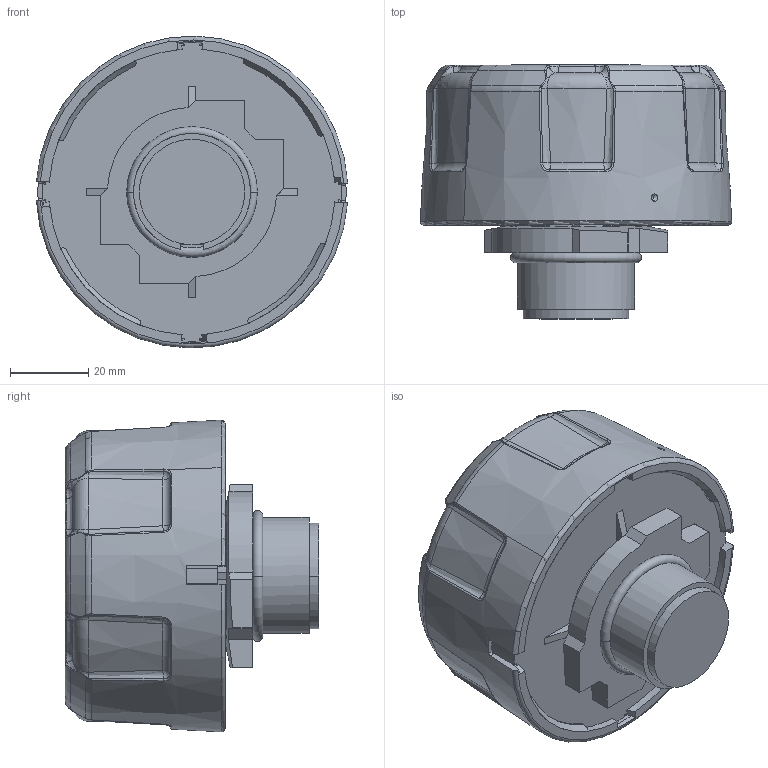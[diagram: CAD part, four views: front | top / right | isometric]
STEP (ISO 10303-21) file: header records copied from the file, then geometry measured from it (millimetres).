
FILE_DESCRIPTION((''),'2;1');
FILE_NAME('13206201_388216','2017-09-26T',('f.kollmann'),(''),'PRO/ENGINEER BY PARAMETRIC TECHNOLOGY CORPORATION, 2015110','PRO/ENGINEER BY PARAMETRIC TECHNOLOGY CORPORATION, 2015110','');
FILE_SCHEMA(('AUTOMOTIVE_DESIGN { 1 0 10303 214 1 1 1 1 }'));
Length unit declared in the file: millimetre
Products named in the file (1): 13206201_388216
Bounding box: 79.76 x 65 x 79.87 mm (x, y, z)
Volume: 204279.3 mm3; surface area: 26416.5 mm2
Topology: 1 solids, 3 shells, 428 faces, 1126 edges, 700 vertices
Faces by surface type: bspline 178, plane 94, cylinder 65, cone 51, torus 28, sphere 12
Entity records: 23756 total; most frequent: CARTESIAN_POINT 10486, ORIENTED_EDGE 2252, DIRECTION 1262, PRESENTATION_STYLE_ASSIGNMENT 1164, STYLED_ITEM 1127, CURVE_STYLE 1126, EDGE_CURVE 1126, VERTEX_POINT 700
